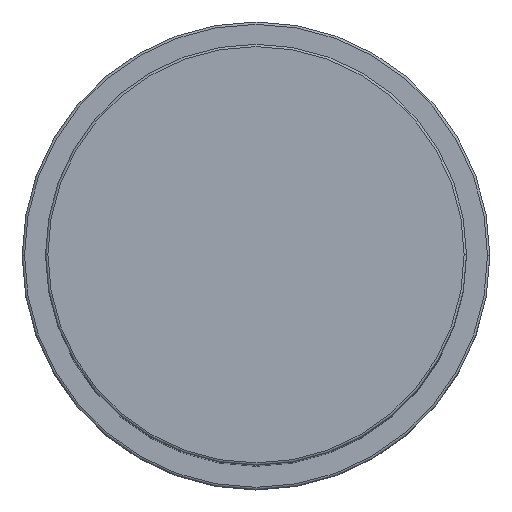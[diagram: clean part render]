
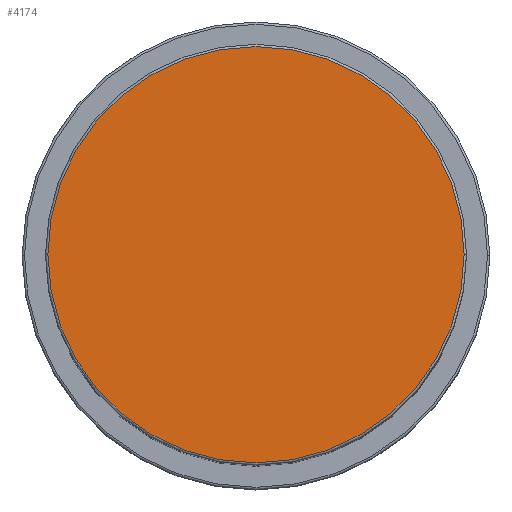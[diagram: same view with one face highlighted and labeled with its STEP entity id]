
A CAD part, top view. The second image highlights one B-rep face of the part: STEP entity #4174.
In plain terms, the highlighted planar face has unit normal (0, 0, 1).
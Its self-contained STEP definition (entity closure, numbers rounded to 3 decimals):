
#253 = ORIENTED_EDGE ( 'NONE', *, *, #4275, .T. ) ;
#516 = DIRECTION ( 'NONE',  ( 0., 0., 1. ) ) ;
#785 = CIRCLE ( 'NONE', #3006, 44.5 ) ;
#954 = PLANE ( 'NONE',  #6890 ) ;
#1097 = DIRECTION ( 'NONE',  ( 1., 0., 0. ) ) ;
#1103 = EDGE_CURVE ( 'NONE', #2446, #2367, #2907, .T. ) ;
#1307 = DIRECTION ( 'NONE',  ( 1., 0., 0. ) ) ;
#1366 = ORIENTED_EDGE ( 'NONE', *, *, #1103, .T. ) ;
#1641 = CARTESIAN_POINT ( 'NONE',  ( 0., 0., 154. ) ) ;
#1945 = CARTESIAN_POINT ( 'NONE',  ( 0., 0., 154. ) ) ;
#2067 = DIRECTION ( 'NONE',  ( 0., 0., 1. ) ) ;
#2086 = DIRECTION ( 'NONE',  ( 1., 0., 0. ) ) ;
#2367 = VERTEX_POINT ( 'NONE', #5558 ) ;
#2446 = VERTEX_POINT ( 'NONE', #6086 ) ;
#2907 = CIRCLE ( 'NONE', #5526, 44.5 ) ;
#3006 = AXIS2_PLACEMENT_3D ( 'NONE', #1641, #516, #1097 ) ;
#4132 = DIRECTION ( 'NONE',  ( 0., 0., 1. ) ) ;
#4174 = ADVANCED_FACE ( 'NONE', ( #5673 ), #954, .T. ) ;
#4275 = EDGE_CURVE ( 'NONE', #2367, #2446, #785, .T. ) ;
#5526 = AXIS2_PLACEMENT_3D ( 'NONE', #1945, #4132, #1307 ) ;
#5558 = CARTESIAN_POINT ( 'NONE',  ( 44.5, 0., 154. ) ) ;
#5673 = FACE_OUTER_BOUND ( 'NONE', #6401, .T. ) ;
#6086 = CARTESIAN_POINT ( 'NONE',  ( -44.5, 0., 154. ) ) ;
#6401 = EDGE_LOOP ( 'NONE', ( #253, #1366 ) ) ;
#6890 = AXIS2_PLACEMENT_3D ( 'NONE', #7053, #2067, #2086 ) ;
#7053 = CARTESIAN_POINT ( 'NONE',  ( 0., 0., 154. ) ) ;
